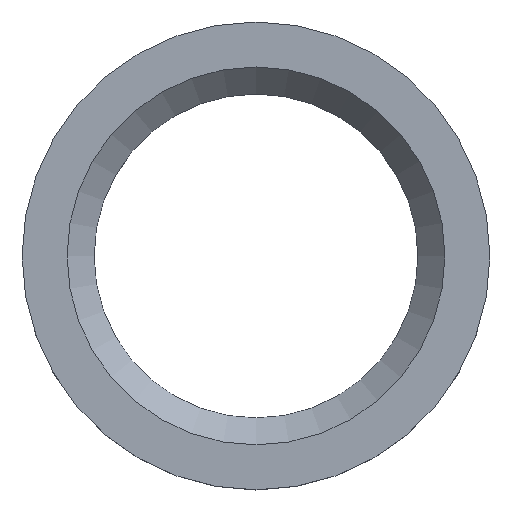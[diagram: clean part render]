
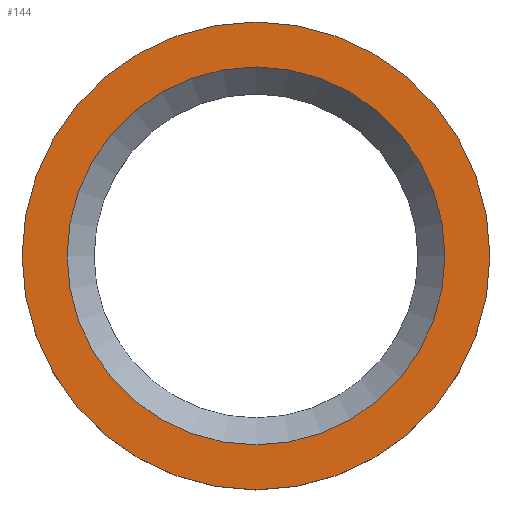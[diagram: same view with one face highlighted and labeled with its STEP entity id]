
A CAD part, top view. The second image highlights one B-rep face of the part: STEP entity #144.
In plain terms, the highlighted planar face has unit normal (0, 0, 1).
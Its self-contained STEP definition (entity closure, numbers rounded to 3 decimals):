
#24 = VERTEX_POINT('',#25);
#25 = CARTESIAN_POINT('',(26.,0.,8.));
#32 = CYLINDRICAL_SURFACE('',#33,26.);
#33 = AXIS2_PLACEMENT_3D('',#34,#35,#36);
#34 = CARTESIAN_POINT('',(0.,0.,0.));
#35 = DIRECTION('',(-0.,-0.,-1.));
#36 = DIRECTION('',(1.,0.,0.));
#51 = EDGE_CURVE('',#24,#24,#52,.T.);
#52 = SURFACE_CURVE('',#53,(#58,#65),.PCURVE_S1.);
#53 = CIRCLE('',#54,26.);
#54 = AXIS2_PLACEMENT_3D('',#55,#56,#57);
#55 = CARTESIAN_POINT('',(0.,0.,8.));
#56 = DIRECTION('',(0.,0.,1.));
#57 = DIRECTION('',(1.,0.,0.));
#58 = PCURVE('',#32,#59);
#59 = DEFINITIONAL_REPRESENTATION('',(#60),#64);
#60 = LINE('',#61,#62);
#61 = CARTESIAN_POINT('',(-0.,-8.));
#62 = VECTOR('',#63,1.);
#63 = DIRECTION('',(-1.,0.));
#64 = ( GEOMETRIC_REPRESENTATION_CONTEXT(2) 
PARAMETRIC_REPRESENTATION_CONTEXT() REPRESENTATION_CONTEXT('2D SPACE',''
  ) );
#65 = PCURVE('',#66,#71);
#66 = PLANE('',#67);
#67 = AXIS2_PLACEMENT_3D('',#68,#69,#70);
#68 = CARTESIAN_POINT('',(0.,0.,8.));
#69 = DIRECTION('',(0.,0.,1.));
#70 = DIRECTION('',(1.,0.,-0.));
#71 = DEFINITIONAL_REPRESENTATION('',(#72),#76);
#72 = CIRCLE('',#73,26.);
#73 = AXIS2_PLACEMENT_2D('',#74,#75);
#74 = CARTESIAN_POINT('',(0.,0.));
#75 = DIRECTION('',(1.,0.));
#76 = ( GEOMETRIC_REPRESENTATION_CONTEXT(2) 
PARAMETRIC_REPRESENTATION_CONTEXT() REPRESENTATION_CONTEXT('2D SPACE',''
  ) );
#144 = ADVANCED_FACE('',(#145,#148),#66,.T.);
#145 = FACE_BOUND('',#146,.T.);
#146 = EDGE_LOOP('',(#147));
#147 = ORIENTED_EDGE('',*,*,#51,.T.);
#148 = FACE_BOUND('',#149,.T.);
#149 = EDGE_LOOP('',(#150));
#150 = ORIENTED_EDGE('',*,*,#151,.F.);
#151 = EDGE_CURVE('',#152,#152,#154,.T.);
#152 = VERTEX_POINT('',#153);
#153 = CARTESIAN_POINT('',(21.,0.,8.));
#154 = SURFACE_CURVE('',#155,(#160,#167),.PCURVE_S1.);
#155 = CIRCLE('',#156,21.);
#156 = AXIS2_PLACEMENT_3D('',#157,#158,#159);
#157 = CARTESIAN_POINT('',(0.,0.,8.));
#158 = DIRECTION('',(0.,0.,1.));
#159 = DIRECTION('',(1.,0.,-0.));
#160 = PCURVE('',#66,#161);
#161 = DEFINITIONAL_REPRESENTATION('',(#162),#166);
#162 = CIRCLE('',#163,21.);
#163 = AXIS2_PLACEMENT_2D('',#164,#165);
#164 = CARTESIAN_POINT('',(0.,0.));
#165 = DIRECTION('',(1.,0.));
#166 = ( GEOMETRIC_REPRESENTATION_CONTEXT(2) 
PARAMETRIC_REPRESENTATION_CONTEXT() REPRESENTATION_CONTEXT('2D SPACE',''
  ) );
#167 = PCURVE('',#168,#173);
#168 = CONICAL_SURFACE('',#169,18.,0.785);
#169 = AXIS2_PLACEMENT_3D('',#170,#171,#172);
#170 = CARTESIAN_POINT('',(0.,0.,5.));
#171 = DIRECTION('',(0.,0.,1.));
#172 = DIRECTION('',(1.,0.,-0.));
#173 = DEFINITIONAL_REPRESENTATION('',(#174),#178);
#174 = LINE('',#175,#176);
#175 = CARTESIAN_POINT('',(0.,3.));
#176 = VECTOR('',#177,1.);
#177 = DIRECTION('',(1.,0.));
#178 = ( GEOMETRIC_REPRESENTATION_CONTEXT(2) 
PARAMETRIC_REPRESENTATION_CONTEXT() REPRESENTATION_CONTEXT('2D SPACE',''
  ) );
